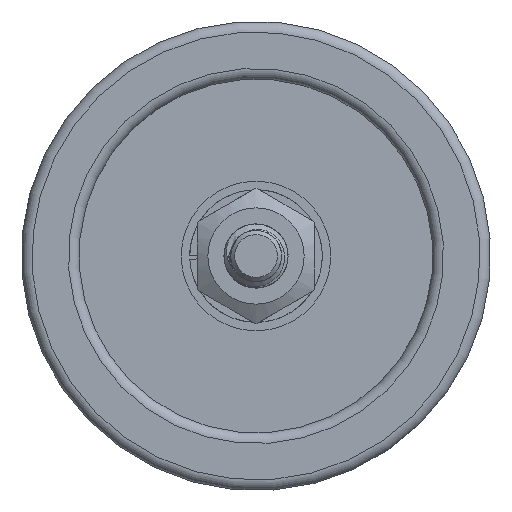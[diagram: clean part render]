
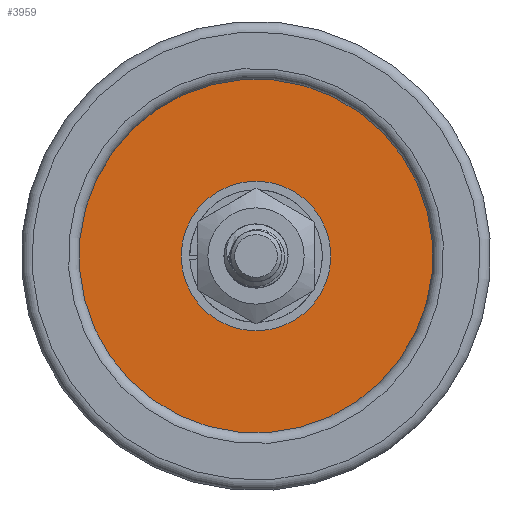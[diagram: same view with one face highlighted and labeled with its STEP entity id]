
A CAD part, front view. The second image highlights one B-rep face of the part: STEP entity #3959.
In plain terms, the highlighted planar face has unit normal (0, -1, 0).
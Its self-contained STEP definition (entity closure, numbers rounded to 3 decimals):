
#205=B_SPLINE_CURVE_WITH_KNOTS('',3,(#8487,#8488,#8489,#8490,#8491,#8492,
#8493),.UNSPECIFIED.,.F.,.F.,(4,3,4),(-0.247,-0.104,
0.),.UNSPECIFIED.);
#213=B_SPLINE_CURVE_WITH_KNOTS('',3,(#10111,#10112,#10113,#10114,#10115,
#10116,#10117),.UNSPECIFIED.,.F.,.F.,(4,3,4),(-0.248,-0.119,
0.),.UNSPECIFIED.);
#1017=FACE_BOUND('',#1373,.T.);
#1119=FACE_OUTER_BOUND('',#1372,.T.);
#1372=EDGE_LOOP('',(#2898));
#1373=EDGE_LOOP('',(#2899,#2900,#2901,#2902));
#1628=CIRCLE('',#4216,1.5);
#1630=CIRCLE('',#4219,8.275);
#1638=CIRCLE('',#4235,1.2);
#1771=VERTEX_POINT('',#8440);
#1772=VERTEX_POINT('',#8486);
#1795=VERTEX_POINT('',#9948);
#1797=VERTEX_POINT('',#10086);
#1805=VERTEX_POINT('',#10110);
#2181=EDGE_CURVE('',#1771,#1772,#205,.T.);
#2218=EDGE_CURVE('',#1795,#1771,#1628,.T.);
#2220=EDGE_CURVE('',#1797,#1797,#1630,.T.);
#2228=EDGE_CURVE('',#1805,#1795,#213,.T.);
#2229=EDGE_CURVE('',#1772,#1805,#1638,.T.);
#2898=ORIENTED_EDGE('',*,*,#2220,.T.);
#2899=ORIENTED_EDGE('',*,*,#2181,.F.);
#2900=ORIENTED_EDGE('',*,*,#2218,.F.);
#2901=ORIENTED_EDGE('',*,*,#2228,.F.);
#2902=ORIENTED_EDGE('',*,*,#2229,.F.);
#3863=PLANE('',#4234);
#3959=ADVANCED_FACE('',(#1119,#1017),#3863,.F.);
#4216=AXIS2_PLACEMENT_3D('',#10082,#4629,#4630);
#4219=AXIS2_PLACEMENT_3D('',#10087,#4635,#4636);
#4234=AXIS2_PLACEMENT_3D('',#10109,#4665,#4666);
#4235=AXIS2_PLACEMENT_3D('',#10118,#4667,#4668);
#4629=DIRECTION('center_axis',(0.,-1.,0.));
#4630=DIRECTION('ref_axis',(-1.,0.,0.));
#4635=DIRECTION('center_axis',(0.,-1.,0.));
#4636=DIRECTION('ref_axis',(-0.247,0.,0.969));
#4665=DIRECTION('center_axis',(0.,1.,0.));
#4666=DIRECTION('ref_axis',(1.,0.,0.));
#4667=DIRECTION('center_axis',(0.,-1.,0.));
#4668=DIRECTION('ref_axis',(0.,0.,1.));
#8440=CARTESIAN_POINT('',(-14.487,-62.772,5.566));
#8486=CARTESIAN_POINT('',(-13.142,-62.772,7.225));
#8487=CARTESIAN_POINT('Ctrl Pts',(-14.487,-62.772,5.566));
#8488=CARTESIAN_POINT('Ctrl Pts',(-14.01,-62.772,5.569));
#8489=CARTESIAN_POINT('Ctrl Pts',(-13.536,-62.772,5.819));
#8490=CARTESIAN_POINT('Ctrl Pts',(-13.288,-62.772,6.221));
#8491=CARTESIAN_POINT('Ctrl Pts',(-13.107,-62.772,6.515));
#8492=CARTESIAN_POINT('Ctrl Pts',(-13.05,-62.772,6.89));
#8493=CARTESIAN_POINT('Ctrl Pts',(-13.141,-62.772,7.225));
#9948=CARTESIAN_POINT('',(-15.7,-62.772,6.447));
#10082=CARTESIAN_POINT('Origin',(-14.33,-62.772,7.058));
#10086=CARTESIAN_POINT('',(-12.284,-62.772,-0.96));
#10087=CARTESIAN_POINT('Origin',(-14.33,-62.772,7.058));
#10109=CARTESIAN_POINT('Origin',(-14.33,-62.772,7.058));
#10110=CARTESIAN_POINT('',(-14.54,-62.772,8.24));
#10111=CARTESIAN_POINT('Ctrl Pts',(-14.54,-62.772,
8.24));
#10112=CARTESIAN_POINT('Ctrl Pts',(-14.968,-62.772,
8.223));
#10113=CARTESIAN_POINT('Ctrl Pts',(-15.374,-62.772,
7.962));
#10114=CARTESIAN_POINT('Ctrl Pts',(-15.587,-62.772,
7.593));
#10115=CARTESIAN_POINT('Ctrl Pts',(-15.783,-62.772,
7.254));
#10116=CARTESIAN_POINT('Ctrl Pts',(-15.818,-62.772,6.825));
#10117=CARTESIAN_POINT('Ctrl Pts',(-15.701,-62.772,
6.447));
#10118=CARTESIAN_POINT('Origin',(-14.33,-62.772,7.058));
